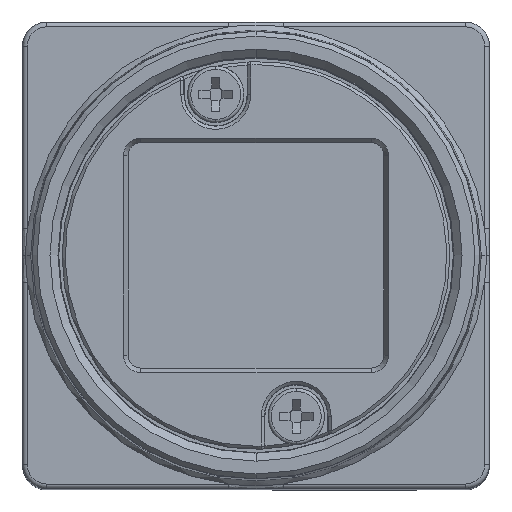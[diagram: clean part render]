
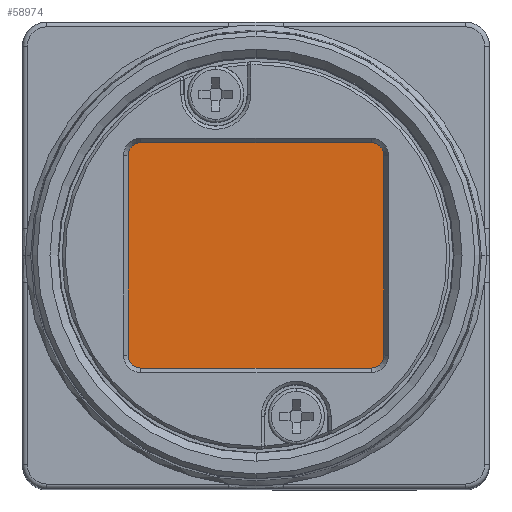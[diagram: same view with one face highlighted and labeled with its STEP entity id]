
A CAD part, top view. The second image highlights one B-rep face of the part: STEP entity #58974.
In plain terms, the highlighted planar face has unit normal (0, 0, 1).
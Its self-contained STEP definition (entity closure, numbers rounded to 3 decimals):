
#16678=DIRECTION('',(1.,0.,0.));
#16679=VECTOR('',#16678,14.3);
#16680=CARTESIAN_POINT('',(-7.15,-7.024,-0.5));
#16681=LINE('',#16680,#16679);
#16685=CARTESIAN_POINT('',(-7.15,-6.2,-0.5));
#16686=DIRECTION('',(0.,0.,-1.));
#16687=DIRECTION('',(0.,-1.,0.));
#16688=AXIS2_PLACEMENT_3D('',#16685,#16686,#16687);
#16693=DIRECTION('',(0.,-1.,0.));
#16694=VECTOR('',#16693,12.4);
#16695=CARTESIAN_POINT('',(-7.974,6.2,-0.5));
#16696=LINE('',#16695,#16694);
#16700=CARTESIAN_POINT('',(-7.15,6.2,-0.5));
#16701=DIRECTION('',(0.,0.,-1.));
#16702=DIRECTION('',(-1.,0.,0.));
#16703=AXIS2_PLACEMENT_3D('',#16700,#16701,#16702);
#16708=DIRECTION('',(-1.,0.,0.));
#16709=VECTOR('',#16708,14.3);
#16710=CARTESIAN_POINT('',(7.15,7.024,-0.5));
#16711=LINE('',#16710,#16709);
#16715=CARTESIAN_POINT('',(7.15,6.2,-0.5));
#16716=DIRECTION('',(0.,0.,-1.));
#16717=DIRECTION('',(0.,1.,0.));
#16718=AXIS2_PLACEMENT_3D('',#16715,#16716,#16717);
#16723=DIRECTION('',(0.,1.,0.));
#16724=VECTOR('',#16723,12.4);
#16725=CARTESIAN_POINT('',(7.974,-6.2,-0.5));
#16726=LINE('',#16725,#16724);
#16730=CARTESIAN_POINT('',(7.15,-6.2,-0.5));
#16731=DIRECTION('',(0.,0.,-1.));
#16732=DIRECTION('',(1.,0.,0.));
#16733=AXIS2_PLACEMENT_3D('',#16730,#16731,#16732);
#40775=CARTESIAN_POINT('',(-7.15,-7.024,-0.5));
#40776=CARTESIAN_POINT('',(7.15,-7.024,-0.5));
#40777=VERTEX_POINT('',#40775);
#40778=VERTEX_POINT('',#40776);
#40779=CARTESIAN_POINT('',(-7.974,-6.2,-0.5));
#40780=VERTEX_POINT('',#40779);
#40781=CARTESIAN_POINT('',(-7.974,6.2,-0.5));
#40782=VERTEX_POINT('',#40781);
#40783=CARTESIAN_POINT('',(7.974,-6.2,-0.5));
#40784=CARTESIAN_POINT('',(7.974,6.2,-0.5));
#40785=VERTEX_POINT('',#40783);
#40786=VERTEX_POINT('',#40784);
#40787=CARTESIAN_POINT('',(7.15,7.024,-0.5));
#40788=VERTEX_POINT('',#40787);
#40789=CARTESIAN_POINT('',(-7.15,7.024,-0.5));
#40790=VERTEX_POINT('',#40789);
#58951=CARTESIAN_POINT('',(0.,0.,-0.5));
#58952=DIRECTION('',(0.,0.,1.));
#58953=DIRECTION('',(1.,0.,0.));
#58954=AXIS2_PLACEMENT_3D('',#58951,#58952,#58953);
#58955=PLANE('',#58954);
#58957=ORIENTED_EDGE('',*,*,#58956,.F.);
#58959=ORIENTED_EDGE('',*,*,#58958,.T.);
#58961=ORIENTED_EDGE('',*,*,#58960,.F.);
#58963=ORIENTED_EDGE('',*,*,#58962,.T.);
#58965=ORIENTED_EDGE('',*,*,#58964,.F.);
#58967=ORIENTED_EDGE('',*,*,#58966,.T.);
#58969=ORIENTED_EDGE('',*,*,#58968,.F.);
#58971=ORIENTED_EDGE('',*,*,#58970,.T.);
#58972=EDGE_LOOP('',(#58957,#58959,#58961,#58963,#58965,#58967,#58969,#58971));
#58973=FACE_OUTER_BOUND('',#58972,.F.);
#58974=ADVANCED_FACE('',(#58973),#58955,.T.);
#16689=CIRCLE('',#16688,0.824);
#16704=CIRCLE('',#16703,0.824);
#16719=CIRCLE('',#16718,0.824);
#16734=CIRCLE('',#16733,0.824);
#58956=EDGE_CURVE('',#40777,#40778,#16681,.T.);
#58958=EDGE_CURVE('',#40777,#40780,#16689,.T.);
#58960=EDGE_CURVE('',#40782,#40780,#16696,.T.);
#58962=EDGE_CURVE('',#40782,#40790,#16704,.T.);
#58964=EDGE_CURVE('',#40788,#40790,#16711,.T.);
#58966=EDGE_CURVE('',#40788,#40786,#16719,.T.);
#58968=EDGE_CURVE('',#40785,#40786,#16726,.T.);
#58970=EDGE_CURVE('',#40785,#40778,#16734,.T.);
